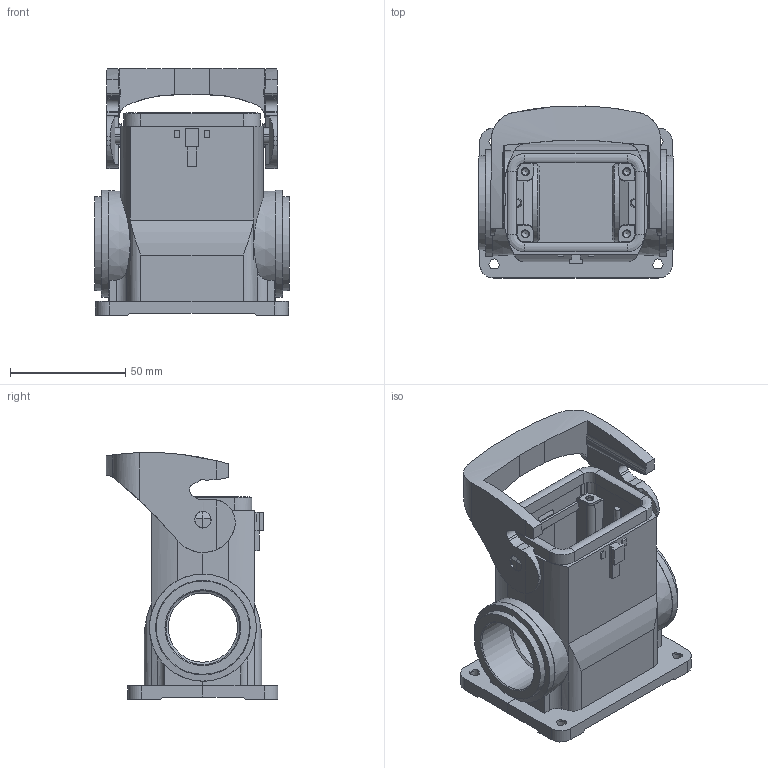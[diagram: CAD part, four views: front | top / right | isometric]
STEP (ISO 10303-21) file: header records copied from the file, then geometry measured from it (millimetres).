
FILE_DESCRIPTION(/* description */ (''),/* implementation_level */ '2;1');
FILE_NAME(/* name */ '100766539ugm000_b.stp',/* time_stamp */ '2022-03-12T07:04:47+01:00',/* author */ (''),/* organization */ (''),/* preprocessor_version */ 'ST-DEVELOPER v16.7',/* originating_system */ 'SIEMENS PLM Software NX 1911',/* authorisation */ '');
FILE_SCHEMA (('AUTOMOTIVE_DESIGN { 1 0 10303 214 3 1 1 1 }'));
Length unit declared in the file: millimetre
Products named in the file (1): 100766539ugm000_b
Bounding box: 84.3 x 74.44 x 107.09 mm (x, y, z)
Volume: 161093.7 mm3; surface area: 60348.3 mm2
Topology: 2 solids, 2 shells, 569 faces, 1743 edges, 1372 vertices
Faces by surface type: plane 368, cylinder 150, cone 44, torus 4, extrusion 3
Full cylindrical faces by diameter (mm): 1.139 x1, 1.346 x1, 3 x4, 3.4 x4, 3.5 x4, 7.2 x2, 30 x2, 32 x2, 46.4 x2
Entity records: 23638 total; most frequent: CARTESIAN_POINT 3943, DIRECTION 3136, ORIENTED_EDGE 3014, EDGE_CURVE 1507, VECTOR 1176, LINE 1173, VERTEX_POINT 1016, AXIS2_PLACEMENT_3D 980
